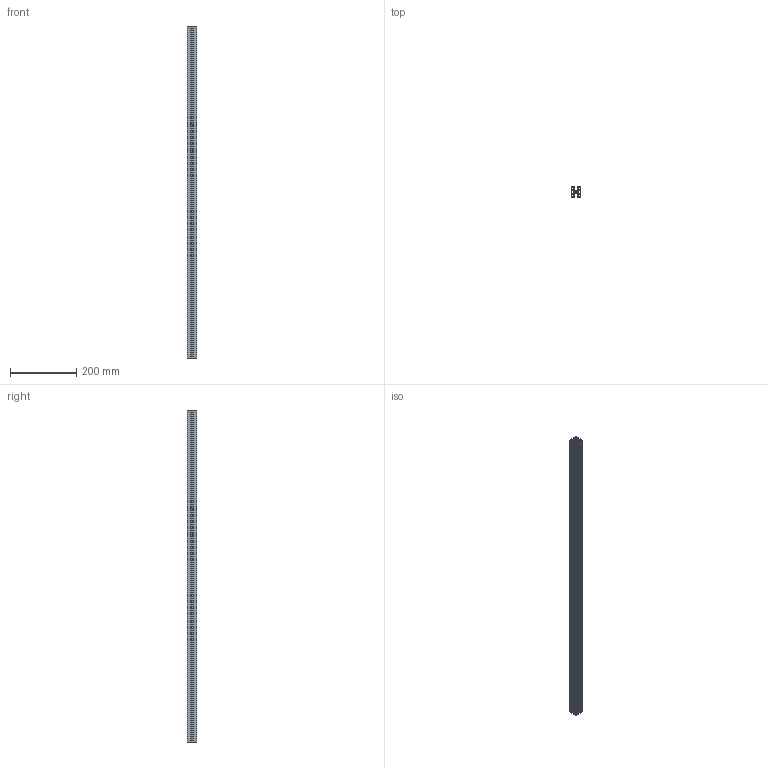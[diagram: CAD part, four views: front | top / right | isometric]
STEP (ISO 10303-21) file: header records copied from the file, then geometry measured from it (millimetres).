
FILE_DESCRIPTION((''),'2;1');
FILE_NAME('\\Dtp_2\share\iriguchi2\M6フレーム\AFS-3030F-6.stp','2014-12-01T10:33:37',('AMS8'),(''),'Autodesk Inventor 2008','Autodesk Inventor 2008','');
FILE_SCHEMA(('AUTOMOTIVE_DESIGN { 1 0 10303 214 1 1 1 1 }'));
Length unit declared in the file: millimetre
Products named in the file (1): Part20
Bounding box: 30 x 30 x 1000 mm (x, y, z)
Volume: 280841.1 mm3; surface area: 405321.2 mm2
Topology: 1 solids, 1 shells, 299 faces, 891 edges, 594 vertices
Faces by surface type: cylinder 169, plane 130
Full cylindrical faces by diameter (mm): 5 x1
Entity records: 10204 total; most frequent: DIRECTION 1828, CARTESIAN_POINT 1784, ORIENTED_EDGE 1780, EDGE_CURVE 890, AXIS2_PLACEMENT_3D 638, VERTEX_POINT 594, VECTOR 552, LINE 552
